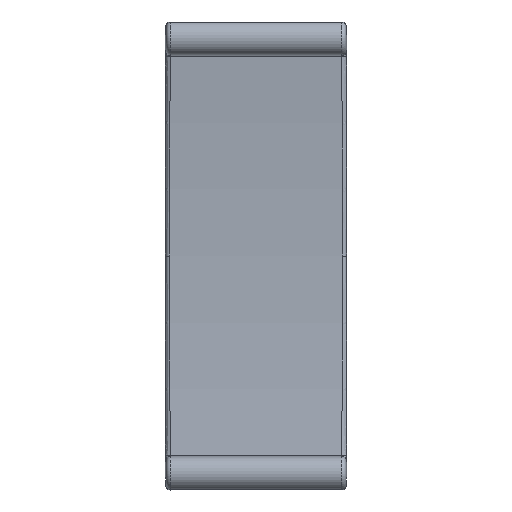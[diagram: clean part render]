
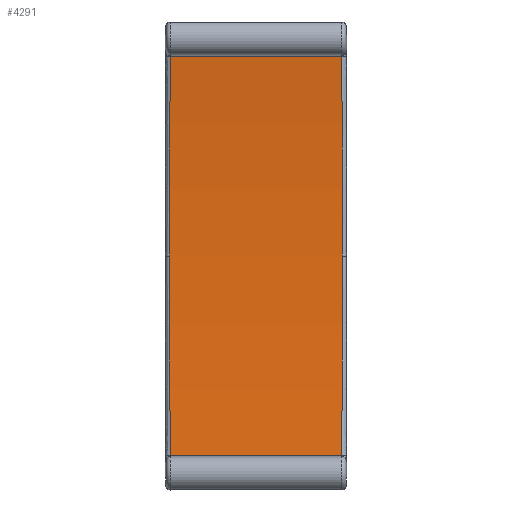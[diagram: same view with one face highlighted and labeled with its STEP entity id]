
A CAD part, top view. The second image highlights one B-rep face of the part: STEP entity #4291.
In plain terms, the highlighted cylindrical face has radius 250 mm (diameter 500 mm), a partial arc.
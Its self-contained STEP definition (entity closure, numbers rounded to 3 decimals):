
#271=FACE_OUTER_BOUND('',#514,.T.);
#514=EDGE_LOOP('',(#2763,#2764,#2765,#2766,#2767,#2768));
#924=CIRCLE('',#4557,249.962);
#925=CIRCLE('',#4558,249.962);
#926=CIRCLE('',#4559,249.962);
#927=CIRCLE('',#4560,249.962);
#1044=LINE('',#5831,#1383);
#1046=LINE('',#5873,#1385);
#1383=VECTOR('',#4868,20.308);
#1385=VECTOR('',#4882,20.308);
#1722=VERTEX_POINT('',#5829);
#1723=VERTEX_POINT('',#5830);
#1728=VERTEX_POINT('',#5866);
#1729=VERTEX_POINT('',#5868);
#1730=VERTEX_POINT('',#5870);
#1731=VERTEX_POINT('',#5872);
#2134=EDGE_CURVE('',#1722,#1723,#1044,.T.);
#2140=EDGE_CURVE('',#1722,#1728,#924,.T.);
#2141=EDGE_CURVE('',#1729,#1723,#925,.T.);
#2142=EDGE_CURVE('',#1730,#1729,#926,.T.);
#2143=EDGE_CURVE('',#1731,#1730,#1046,.T.);
#2144=EDGE_CURVE('',#1728,#1731,#927,.T.);
#2763=ORIENTED_EDGE('',*,*,#2140,.F.);
#2764=ORIENTED_EDGE('',*,*,#2134,.T.);
#2765=ORIENTED_EDGE('',*,*,#2141,.F.);
#2766=ORIENTED_EDGE('',*,*,#2142,.F.);
#2767=ORIENTED_EDGE('',*,*,#2143,.F.);
#2768=ORIENTED_EDGE('',*,*,#2144,.F.);
#4004=CYLINDRICAL_SURFACE('',#4556,250.);
#4291=ADVANCED_FACE('',(#271),#4004,.F.);
#4556=AXIS2_PLACEMENT_3D('',#5865,#4874,#4875);
#4557=AXIS2_PLACEMENT_3D('',#5867,#4876,#4877);
#4558=AXIS2_PLACEMENT_3D('',#5869,#4878,#4879);
#4559=AXIS2_PLACEMENT_3D('',#5871,#4880,#4881);
#4560=AXIS2_PLACEMENT_3D('',#5874,#4883,#4884);
#4868=DIRECTION('',(-1.,0.,0.));
#4874=DIRECTION('center_axis',(1.,0.,0.));
#4875=DIRECTION('ref_axis',(0.,-0.098,-0.995));
#4876=DIRECTION('center_axis',(-1.,0.,
-0.017));
#4877=DIRECTION('ref_axis',(0.017,0.,-1.));
#4878=DIRECTION('center_axis',(1.,0.,-0.017));
#4879=DIRECTION('ref_axis',(-0.017,0.094,-0.995));
#4880=DIRECTION('center_axis',(1.,0.,-0.017));
#4881=DIRECTION('ref_axis',(-0.017,0.,-1.));
#4882=DIRECTION('',(-1.,0.,0.));
#4883=DIRECTION('center_axis',(-1.,0.,-0.017));
#4884=DIRECTION('ref_axis',(0.017,-0.094,-0.995));
#5829=CARTESIAN_POINT('',(20.904,23.641,5.992));
#5830=CARTESIAN_POINT('',(0.596,23.641,5.992));
#5831=CARTESIAN_POINT('',(20.904,23.641,5.992));
#5865=CARTESIAN_POINT('Origin',(10.75,0.045,254.876));
#5866=CARTESIAN_POINT('',(20.924,0.045,4.876));
#5867=CARTESIAN_POINT('Origin',(16.553,0.045,254.799));
#5868=CARTESIAN_POINT('',(0.576,0.045,4.876));
#5869=CARTESIAN_POINT('Origin',(4.947,0.045,254.799));
#5870=CARTESIAN_POINT('',(0.596,-23.55,5.992));
#5871=CARTESIAN_POINT('Origin',(4.947,0.045,254.799));
#5872=CARTESIAN_POINT('',(20.904,-23.55,5.992));
#5873=CARTESIAN_POINT('',(20.904,-23.55,5.992));
#5874=CARTESIAN_POINT('Origin',(16.553,0.045,254.799));
